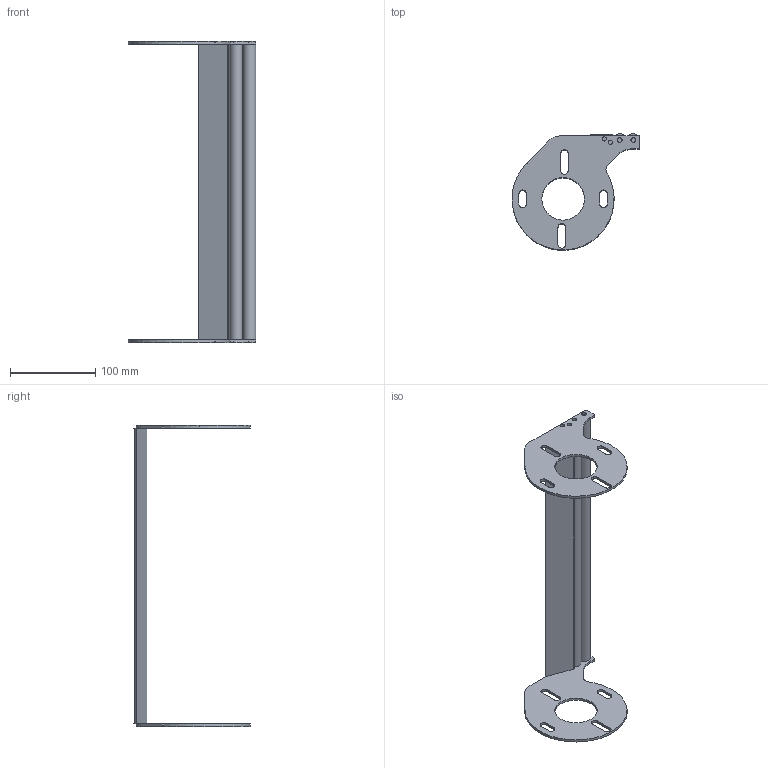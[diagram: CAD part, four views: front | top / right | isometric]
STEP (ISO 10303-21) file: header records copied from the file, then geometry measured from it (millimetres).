
FILE_DESCRIPTION (( 'STEP AP214' ), '1' );
FILE_NAME ('F2 1200 TG1M.step', '2017-04-05T06:47:50', ( '' ), ( '' ), 'SwSTEP 2.0', 'SolidWorks 2015', '' );
FILE_SCHEMA (( 'AUTOMOTIVE_DESIGN' ));
Length unit declared in the file: millimetre
Products named in the file (1): F2 1200 TG1M
Bounding box: 150.4 x 136.54 x 354 mm (x, y, z)
Volume: 282983.2 mm3; surface area: 110706.6 mm2
Topology: 1 solids, 1 shells, 114 faces, 312 edges, 204 vertices
Faces by surface type: plane 61, cylinder 53
Entity records: 4838 total; most frequent: DIRECTION 656, CARTESIAN_POINT 631, ORIENTED_EDGE 624, EDGE_CURVE 312, AXIS2_PLACEMENT_3D 229, VERTEX_POINT 204, LINE 198, VECTOR 198
